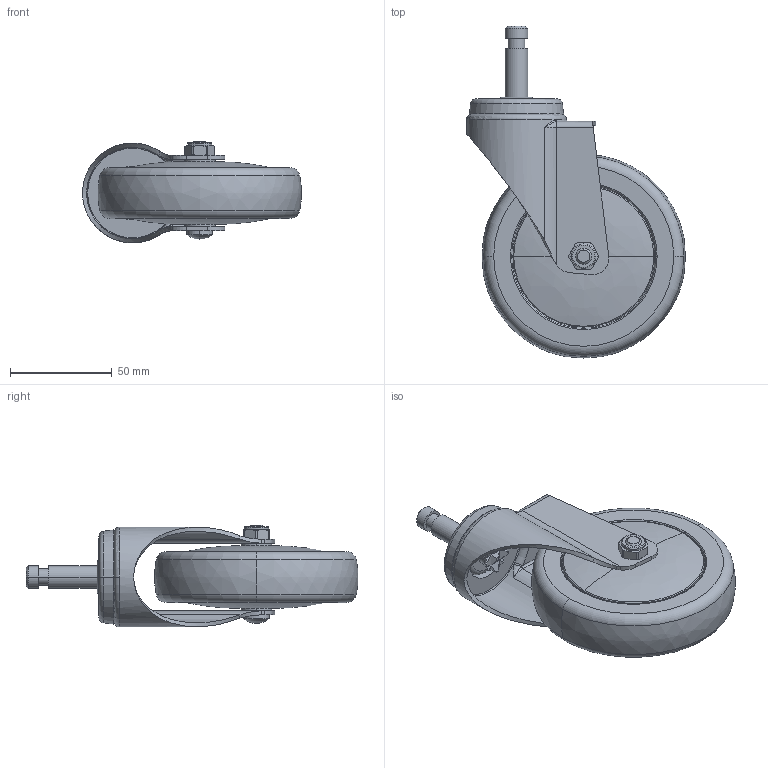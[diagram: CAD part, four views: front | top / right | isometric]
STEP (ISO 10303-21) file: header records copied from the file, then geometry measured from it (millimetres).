
FILE_DESCRIPTION((''),'2;1');
FILE_NAME('37154_ASM','2026-07-09T',('Lenovo'),(''),'PRO/ENGINEER BY PARAMETRIC TECHNOLOGY CORPORATION, 2010280','PRO/ENGINEER BY PARAMETRIC TECHNOLOGY CORPORATION, 2010280','');
FILE_SCHEMA(('CONFIG_CONTROL_DESIGN'));
Length unit declared in the file: millimetre
Products named in the file (8): 3714-311; 350-25; 360-03; 374-907; 374-69A; 350-33A; 300-34; 37154_ASM
Assembly tree (8 placements, depth 2):
  37154_ASM
    3714-311
    350-25
    360-03
    374-907
    374-69A  x2
    350-33A
    300-34
Bounding box: 107.38 x 162.9 x 49.98 mm (x, y, z)
Volume: 168791.9 mm3; surface area: 76747.6 mm2
Topology: 8 solids, 8 shells, 346 faces, 794 edges, 485 vertices
Faces by surface type: plane 108, cylinder 91, torus 78, cone 44, bspline 23, sphere 2
Entity records: 10403 total; most frequent: CARTESIAN_POINT 3120, DIRECTION 1572, ORIENTED_EDGE 1452, EDGE_CURVE 726, AXIS2_PLACEMENT_3D 684, VERTEX_POINT 447, CIRCLE 374, EDGE_LOOP 347
